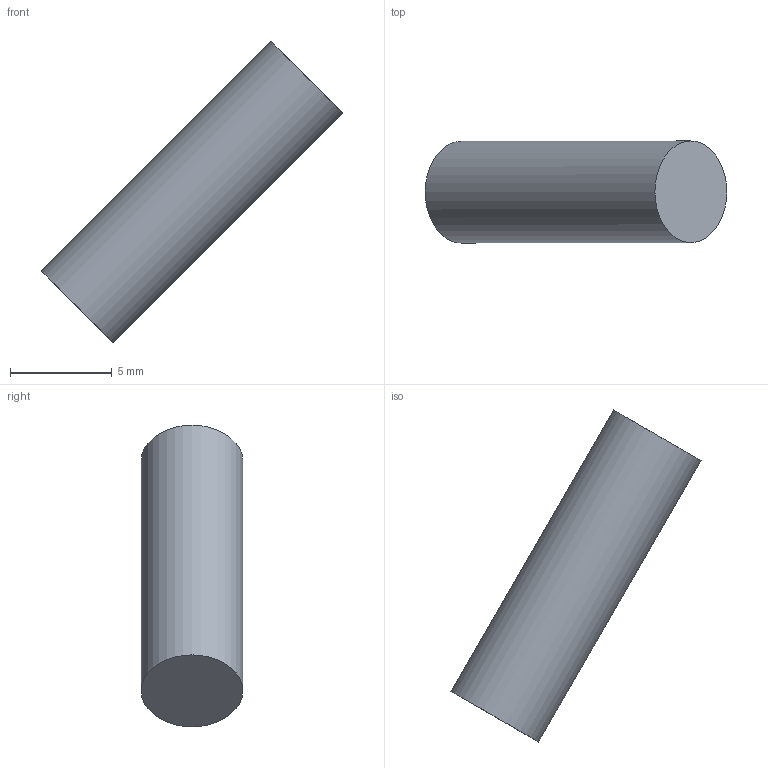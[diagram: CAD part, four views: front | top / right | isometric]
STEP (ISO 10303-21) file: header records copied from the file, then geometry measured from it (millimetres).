
FILE_DESCRIPTION(('Open CASCADE Model'),'2;1');
FILE_NAME('Open CASCADE Shape Model','2026-10-18T02:27:58',('Author'),( 'Open CASCADE'),'Open CASCADE STEP processor 7.9','Open CASCADE 7.9' ,'Unknown');
FILE_SCHEMA(('AUTOMOTIVE_DESIGN { 1 0 10303 214 1 1 1 1 }'));
Length unit declared in the file: millimetre
Products named in the file (1): Open CASCADE STEP translator 7.9 4
Bounding box: 14.84 x 5 x 14.84 mm (x, y, z)
Volume: 313.8 mm3; surface area: 290.3 mm2
Topology: 1 solids, 1 shells, 3 faces, 3 edges, 2 vertices
Faces by surface type: plane 2, cylinder 1
Full cylindrical faces by diameter (mm): 5 x1
Entity records: 108 total; most frequent: DIRECTION 19, CARTESIAN_POINT 15, AXIS2_PLACEMENT_3D 6, ORIENTED_EDGE 6, PCURVE 6, DEFINITIONAL_REPRESENTATION 6, LINE 5, VECTOR 5
